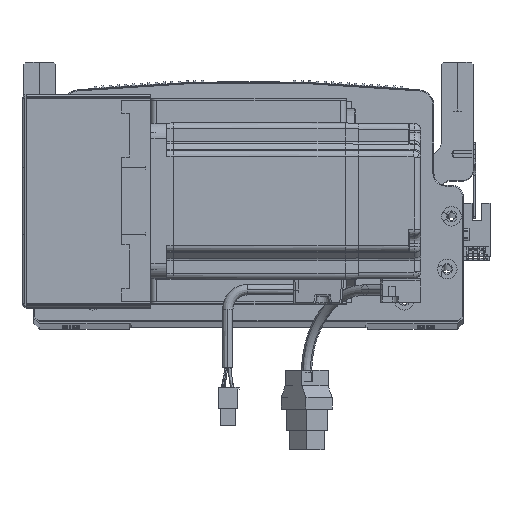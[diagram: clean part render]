
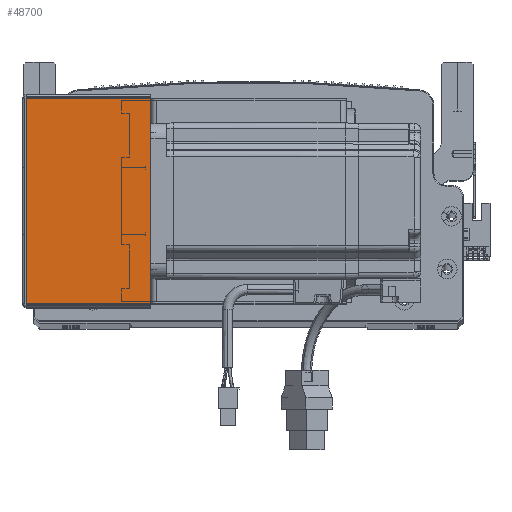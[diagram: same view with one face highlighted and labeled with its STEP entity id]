
A CAD part, top view. The second image highlights one B-rep face of the part: STEP entity #48700.
In plain terms, the highlighted planar face has unit normal (0, 0, 1) as drawn and (0, 0, -1) by its records, which use the part's own axes.
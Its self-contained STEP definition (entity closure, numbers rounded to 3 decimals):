
#8066 = LINE ( 'NONE', #22123, #32923 ) ;
#19946 = EDGE_CURVE ( 'NONE', #36710, #60354, #46727, .T. ) ;
#22123 = CARTESIAN_POINT ( 'NONE',  ( 0., 105.293, -205.5 ) ) ;
#23720 = DIRECTION ( 'NONE',  ( 0., 0., 1. ) ) ;
#23749 = LINE ( 'NONE', #65435, #30275 ) ;
#28565 = ORIENTED_EDGE ( 'NONE', *, *, #44398, .F. ) ;
#30275 = VECTOR ( 'NONE', #87185, 1000. ) ;
#30818 = CARTESIAN_POINT ( 'NONE',  ( 0.737, 105.293, -205.5 ) ) ;
#32923 = VECTOR ( 'NONE', #59935, 1000. ) ;
#34630 = ORIENTED_EDGE ( 'NONE', *, *, #19946, .F. ) ;
#35204 = EDGE_LOOP ( 'NONE', ( #28565, #58335, #68502, #34630 ) ) ;
#36710 = VERTEX_POINT ( 'NONE', #78341 ) ;
#40368 = EDGE_CURVE ( 'NONE', #68925, #58859, #8066, .T. ) ;
#44398 = EDGE_CURVE ( 'NONE', #68925, #36710, #23749, .T. ) ;
#46727 = LINE ( 'NONE', #75866, #74742 ) ;
#48700 = ADVANCED_FACE ( 'NONE', ( #71873 ), #78627, .F. ) ;
#58214 = CARTESIAN_POINT ( 'NONE',  ( 64.5, 105.293, -205.5 ) ) ;
#58335 = ORIENTED_EDGE ( 'NONE', *, *, #40368, .T. ) ;
#58859 = VERTEX_POINT ( 'NONE', #58214 ) ;
#59935 = DIRECTION ( 'NONE',  ( 1., 0., 0. ) ) ;
#60354 = VERTEX_POINT ( 'NONE', #70530 ) ;
#61410 = DIRECTION ( 'NONE',  ( 1., 0., 0. ) ) ;
#65435 = CARTESIAN_POINT ( 'NONE',  ( 0.737, 0., -205.5 ) ) ;
#68502 = ORIENTED_EDGE ( 'NONE', *, *, #74727, .T. ) ;
#68925 = VERTEX_POINT ( 'NONE', #30818 ) ;
#70530 = CARTESIAN_POINT ( 'NONE',  ( 64.5, 0.707, -205.5 ) ) ;
#71873 = FACE_OUTER_BOUND ( 'NONE', #35204, .T. ) ;
#71965 = LINE ( 'NONE', #72258, #86009 ) ;
#72258 = CARTESIAN_POINT ( 'NONE',  ( 64.5, 0., -205.5 ) ) ;
#74727 = EDGE_CURVE ( 'NONE', #58859, #60354, #71965, .T. ) ;
#74742 = VECTOR ( 'NONE', #61410, 1000. ) ;
#75866 = CARTESIAN_POINT ( 'NONE',  ( 0., 0.707, -205.5 ) ) ;
#78341 = CARTESIAN_POINT ( 'NONE',  ( 0.737, 0.707, -205.5 ) ) ;
#78627 = PLANE ( 'NONE',  #79171 ) ;
#79171 = AXIS2_PLACEMENT_3D ( 'NONE', #85609, #23720, #79207 ) ;
#79207 = DIRECTION ( 'NONE',  ( 1., 0., 0. ) ) ;
#85609 = CARTESIAN_POINT ( 'NONE',  ( 0., 0., -205.5 ) ) ;
#86009 = VECTOR ( 'NONE', #87385, 1000. ) ;
#87185 = DIRECTION ( 'NONE',  ( 0., -1., 0. ) ) ;
#87385 = DIRECTION ( 'NONE',  ( 0., -1., 0. ) ) ;
